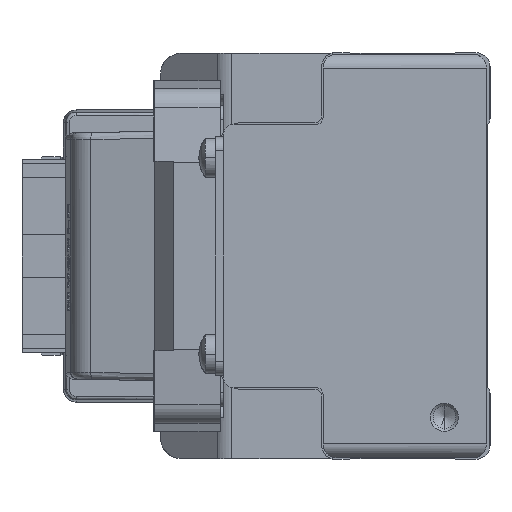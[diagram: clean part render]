
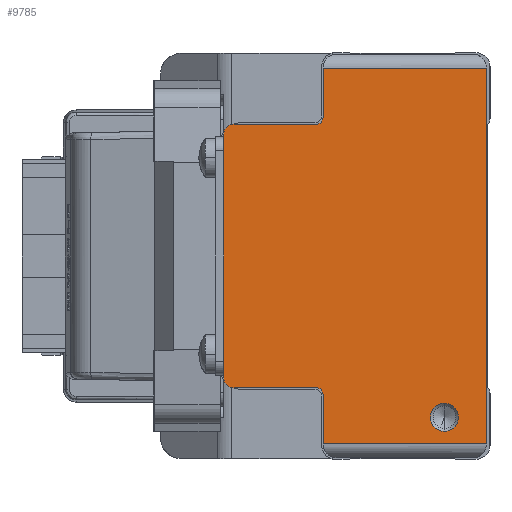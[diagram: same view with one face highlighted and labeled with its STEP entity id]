
A CAD part, left-side view. The second image highlights one B-rep face of the part: STEP entity #9785.
In plain terms, the highlighted planar face has unit normal (-1, 0, 0) as drawn and (0, 0, 1) by its records, which use the part's own axes.
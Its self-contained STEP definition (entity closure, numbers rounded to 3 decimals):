
#558 = LINE ( 'NONE', #4044, #39928 ) ;
#765 = DIRECTION ( 'NONE',  ( 0., -1., 0. ) ) ;
#1113 = EDGE_CURVE ( 'NONE', #25039, #7844, #27778, .T. ) ;
#1456 = EDGE_CURVE ( 'NONE', #8086, #32750, #13137, .T. ) ;
#2961 = ORIENTED_EDGE ( 'NONE', *, *, #32066, .T. ) ;
#3041 = VECTOR ( 'NONE', #12742, 1000. ) ;
#3582 = ORIENTED_EDGE ( 'NONE', *, *, #15091, .T. ) ;
#3601 = EDGE_CURVE ( 'NONE', #41749, #8553, #19809, .T. ) ;
#3917 = CARTESIAN_POINT ( 'NONE',  ( -21., 6.5, 370. ) ) ;
#4044 = CARTESIAN_POINT ( 'NONE',  ( -18.8, 36.5, 370. ) ) ;
#5240 = FACE_BOUND ( 'NONE', #20359, .T. ) ;
#6046 = AXIS2_PLACEMENT_3D ( 'NONE', #28975, #26332, #39168 ) ;
#6192 = DIRECTION ( 'NONE',  ( 1., 0., 0. ) ) ;
#6359 = CARTESIAN_POINT ( 'NONE',  ( -26.8, 24., 370. ) ) ;
#6655 = CARTESIAN_POINT ( 'NONE',  ( -19.8, 23.8, 370. ) ) ;
#6875 = DIRECTION ( 'NONE',  ( -1., 0., 0. ) ) ;
#6907 = CARTESIAN_POINT ( 'NONE',  ( 26.8, 23.8, 370. ) ) ;
#7489 = ORIENTED_EDGE ( 'NONE', *, *, #41470, .T. ) ;
#7498 = ORIENTED_EDGE ( 'NONE', *, *, #23251, .T. ) ;
#7844 = VERTEX_POINT ( 'NONE', #19755 ) ;
#8024 = AXIS2_PLACEMENT_3D ( 'NONE', #26817, #40139, #20471 ) ;
#8086 = VERTEX_POINT ( 'NONE', #3917 ) ;
#8124 = CARTESIAN_POINT ( 'NONE',  ( 19.8, 24.8, 370. ) ) ;
#8278 = CARTESIAN_POINT ( 'NONE',  ( 18.8, 24.8, 370. ) ) ;
#8553 = VERTEX_POINT ( 'NONE', #38717 ) ;
#8672 = AXIS2_PLACEMENT_3D ( 'NONE', #26086, #39588, #9334 ) ;
#9334 = DIRECTION ( 'NONE',  ( 1., 0., 0. ) ) ;
#9528 = VECTOR ( 'NONE', #30146, 1000. ) ;
#9785 = ADVANCED_FACE ( 'NONE', ( #5240, #12283 ), #14322, .T. ) ;
#10289 = AXIS2_PLACEMENT_3D ( 'NONE', #15144, #28583, #22009 ) ;
#10327 = CIRCLE ( 'NONE', #20205, 1. ) ;
#12283 = FACE_OUTER_BOUND ( 'NONE', #42735, .T. ) ;
#12415 = ORIENTED_EDGE ( 'NONE', *, *, #40418, .T. ) ;
#12742 = DIRECTION ( 'NONE',  ( 0., -1., 0. ) ) ;
#13137 = CIRCLE ( 'NONE', #33527, 2. ) ;
#13152 = VECTOR ( 'NONE', #21759, 1000. ) ;
#13499 = VERTEX_POINT ( 'NONE', #38493 ) ;
#13933 = DIRECTION ( 'NONE',  ( 0., 0., 1. ) ) ;
#14322 = PLANE ( 'NONE',  #10289 ) ;
#14880 = LINE ( 'NONE', #8278, #13152 ) ;
#14906 = VERTEX_POINT ( 'NONE', #16043 ) ;
#15054 = VERTEX_POINT ( 'NONE', #43397 ) ;
#15091 = EDGE_CURVE ( 'NONE', #32750, #8086, #36327, .T. ) ;
#15144 = CARTESIAN_POINT ( 'NONE',  ( -26.8, 21.8, 370. ) ) ;
#15613 = DIRECTION ( 'NONE',  ( 1., 0., 0. ) ) ;
#16043 = CARTESIAN_POINT ( 'NONE',  ( 18.8, 36.5, 370. ) ) ;
#16331 = ORIENTED_EDGE ( 'NONE', *, *, #1113, .T. ) ;
#17417 = EDGE_CURVE ( 'NONE', #7844, #41749, #29502, .T. ) ;
#17611 = CARTESIAN_POINT ( 'NONE',  ( -23., 6.5, 370. ) ) ;
#18114 = ORIENTED_EDGE ( 'NONE', *, *, #19172, .F. ) ;
#18594 = CARTESIAN_POINT ( 'NONE',  ( 17.3, 38., 370. ) ) ;
#19172 = EDGE_CURVE ( 'NONE', #36278, #8553, #32788, .T. ) ;
#19380 = ORIENTED_EDGE ( 'NONE', *, *, #28841, .T. ) ;
#19613 = CARTESIAN_POINT ( 'NONE',  ( -25., 6.5, 370. ) ) ;
#19755 = CARTESIAN_POINT ( 'NONE',  ( -26.8, 23.8, 370. ) ) ;
#19809 = LINE ( 'NONE', #39475, #42234 ) ;
#20205 = AXIS2_PLACEMENT_3D ( 'NONE', #8124, #13933, #25332 ) ;
#20359 = EDGE_LOOP ( 'NONE', ( #3582, #35276 ) ) ;
#20395 = EDGE_CURVE ( 'NONE', #15054, #14906, #14880, .T. ) ;
#20471 = DIRECTION ( 'NONE',  ( 1., 0., 0. ) ) ;
#20645 = CARTESIAN_POINT ( 'NONE',  ( 19.8, 23.8, 370. ) ) ;
#20692 = CIRCLE ( 'NONE', #30502, 1. ) ;
#21472 = VECTOR ( 'NONE', #23888, 1000. ) ;
#21759 = DIRECTION ( 'NONE',  ( 0., 1., 0. ) ) ;
#21776 = VERTEX_POINT ( 'NONE', #37706 ) ;
#22009 = DIRECTION ( 'NONE',  ( 1., 0., 0. ) ) ;
#22535 = ORIENTED_EDGE ( 'NONE', *, *, #33420, .F. ) ;
#22684 = VERTEX_POINT ( 'NONE', #32431 ) ;
#22826 = CARTESIAN_POINT ( 'NONE',  ( -19.8, 23.8, 370. ) ) ;
#23251 = EDGE_CURVE ( 'NONE', #14906, #26327, #27658, .T. ) ;
#23888 = DIRECTION ( 'NONE',  ( -1., 0., 0. ) ) ;
#25039 = VERTEX_POINT ( 'NONE', #22826 ) ;
#25332 = DIRECTION ( 'NONE',  ( 1., 0., 0. ) ) ;
#26086 = CARTESIAN_POINT ( 'NONE',  ( 17.3, 36.5, 370. ) ) ;
#26327 = VERTEX_POINT ( 'NONE', #18594 ) ;
#26332 = DIRECTION ( 'NONE',  ( 0., 0., -1. ) ) ;
#26360 = LINE ( 'NONE', #33178, #39450 ) ;
#26817 = CARTESIAN_POINT ( 'NONE',  ( -17.3, 36.5, 370. ) ) ;
#27588 = LINE ( 'NONE', #6907, #21472 ) ;
#27658 = CIRCLE ( 'NONE', #8672, 1.5 ) ;
#27778 = LINE ( 'NONE', #6655, #42862 ) ;
#28384 = CARTESIAN_POINT ( 'NONE',  ( 26.8, 23.8, 370. ) ) ;
#28583 = DIRECTION ( 'NONE',  ( 0., 0., 1. ) ) ;
#28841 = EDGE_CURVE ( 'NONE', #26327, #13499, #26360, .T. ) ;
#28975 = CARTESIAN_POINT ( 'NONE',  ( -23., 6.5, 370. ) ) ;
#29109 = CARTESIAN_POINT ( 'NONE',  ( -19.8, 24.8, 370. ) ) ;
#29222 = DIRECTION ( 'NONE',  ( -1., 0., 0. ) ) ;
#29502 = LINE ( 'NONE', #6359, #3041 ) ;
#30146 = DIRECTION ( 'NONE',  ( 0., -1., 0. ) ) ;
#30215 = DIRECTION ( 'NONE',  ( 0., 0., -1. ) ) ;
#30502 = AXIS2_PLACEMENT_3D ( 'NONE', #29109, #39737, #6192 ) ;
#31072 = DIRECTION ( 'NONE',  ( -1., 0., 0. ) ) ;
#31571 = EDGE_CURVE ( 'NONE', #25039, #22684, #20692, .T. ) ;
#32066 = EDGE_CURVE ( 'NONE', #13499, #21776, #33356, .T. ) ;
#32431 = CARTESIAN_POINT ( 'NONE',  ( -18.8, 24.8, 370. ) ) ;
#32750 = VERTEX_POINT ( 'NONE', #19613 ) ;
#32788 = LINE ( 'NONE', #36542, #9528 ) ;
#33178 = CARTESIAN_POINT ( 'NONE',  ( 17.3, 38., 370. ) ) ;
#33356 = CIRCLE ( 'NONE', #8024, 1.5 ) ;
#33420 = EDGE_CURVE ( 'NONE', #15054, #37780, #10327, .T. ) ;
#33527 = AXIS2_PLACEMENT_3D ( 'NONE', #17611, #30215, #31072 ) ;
#34599 = ORIENTED_EDGE ( 'NONE', *, *, #20395, .T. ) ;
#34814 = CARTESIAN_POINT ( 'NONE',  ( -26.8, 0.5, 370. ) ) ;
#35276 = ORIENTED_EDGE ( 'NONE', *, *, #1456, .T. ) ;
#36278 = VERTEX_POINT ( 'NONE', #28384 ) ;
#36327 = CIRCLE ( 'NONE', #6046, 2. ) ;
#36542 = CARTESIAN_POINT ( 'NONE',  ( 26.8, 24., 370. ) ) ;
#37706 = CARTESIAN_POINT ( 'NONE',  ( -18.8, 36.5, 370. ) ) ;
#37777 = ORIENTED_EDGE ( 'NONE', *, *, #31571, .F. ) ;
#37780 = VERTEX_POINT ( 'NONE', #20645 ) ;
#38493 = CARTESIAN_POINT ( 'NONE',  ( -17.3, 38., 370. ) ) ;
#38717 = CARTESIAN_POINT ( 'NONE',  ( 26.8, 0.5, 370. ) ) ;
#39168 = DIRECTION ( 'NONE',  ( -1., 0., 0. ) ) ;
#39450 = VECTOR ( 'NONE', #29222, 1000. ) ;
#39475 = CARTESIAN_POINT ( 'NONE',  ( -26.8, 0.5, 370. ) ) ;
#39588 = DIRECTION ( 'NONE',  ( 0., 0., 1. ) ) ;
#39735 = ORIENTED_EDGE ( 'NONE', *, *, #3601, .T. ) ;
#39737 = DIRECTION ( 'NONE',  ( 0., 0., 1. ) ) ;
#39928 = VECTOR ( 'NONE', #765, 1000. ) ;
#40139 = DIRECTION ( 'NONE',  ( 0., 0., 1. ) ) ;
#40418 = EDGE_CURVE ( 'NONE', #36278, #37780, #27588, .T. ) ;
#41470 = EDGE_CURVE ( 'NONE', #21776, #22684, #558, .T. ) ;
#41749 = VERTEX_POINT ( 'NONE', #34814 ) ;
#42234 = VECTOR ( 'NONE', #15613, 1000. ) ;
#42486 = ORIENTED_EDGE ( 'NONE', *, *, #17417, .T. ) ;
#42735 = EDGE_LOOP ( 'NONE', ( #7489, #37777, #16331, #42486, #39735, #18114, #12415, #22535, #34599, #7498, #19380, #2961 ) ) ;
#42862 = VECTOR ( 'NONE', #6875, 1000. ) ;
#43397 = CARTESIAN_POINT ( 'NONE',  ( 18.8, 24.8, 370. ) ) ;
